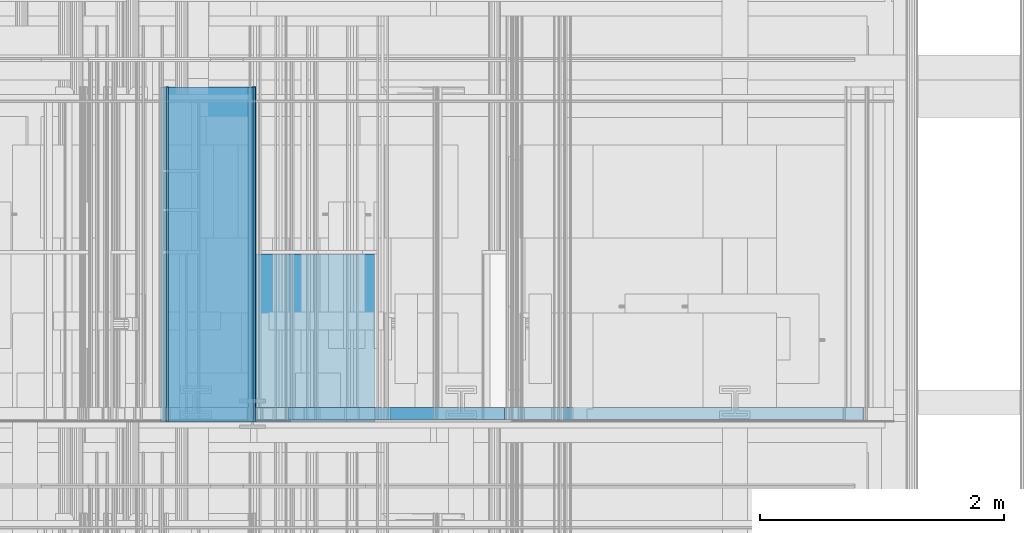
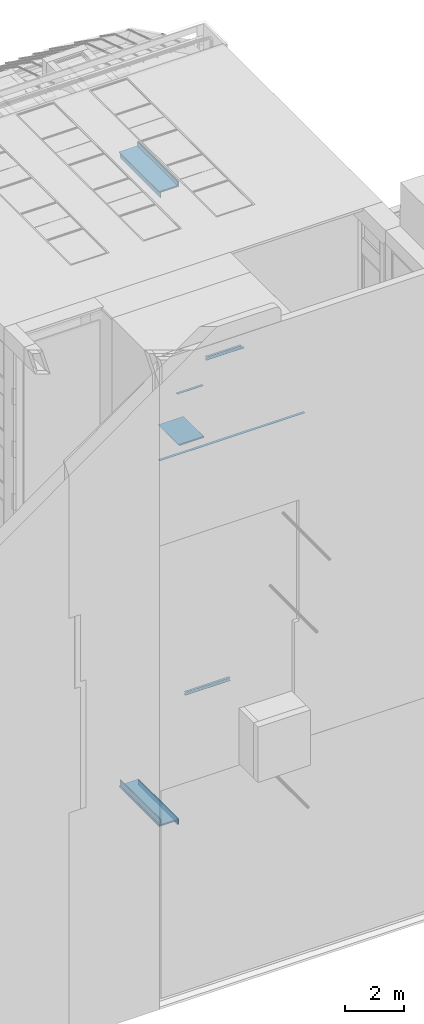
# One storey, part 108 of 583: 22 building element parts, 11 elements without a shape of their own.
"""IFC2X3 building model written with IfcOpenShell, lengths in metres."""

import ifcopenshell
import ifcopenshell.guid

model = None  # the IFC model being written
_history = None  # IfcOwnerHistory: only IFC2X3 demands one
_inside = {}  # id of a spatial element -> (the spatial element, [elements in it])
_under = {}  # id of a project, library or spatial element -> (it, [spatial elements below it])
_declared = {}  # id of a project -> (the project, [libraries it declares])
_typed = {}  # id of a type object -> (the type object, [elements of that type])
_made_of = {}  # id of a material, layer set ... -> (it, [elements and type objects made of it])


def new_model(schema):
    """Start an empty IFC model of exactly this schema.

    Asked for "IFC4X3", IfcOpenShell would pick the latest addendum, in which some entities
    have other attributes; the version numbers below select the first issue.
    IFC2X3 requires an IfcOwnerHistory on every rooted entity: one is made here for all.
    """
    global model, _history
    if schema == "IFC4X3":
        model = ifcopenshell.file(schema_version=(4, 3, 0, 0))
    else:
        model = ifcopenshell.file(schema=schema)
    _inside.clear()
    _under.clear()
    _declared.clear()
    _typed.clear()
    _made_of.clear()
    _history = None
    if model.schema == "IFC2X3":
        org = make("IfcOrganization", Name="unknown")
        user = make(
            "IfcPersonAndOrganization",
            ThePerson=make("IfcPerson", FamilyName="unknown"),
            TheOrganization=org,
        )
        app = make(
            "IfcApplication",
            ApplicationDeveloper=org,
            Version="unknown",
            ApplicationFullName="unknown",
            ApplicationIdentifier="unknown",
        )
        _history = make(
            "IfcOwnerHistory",
            OwningUser=user,
            OwningApplication=app,
            ChangeAction="ADDED",
            CreationDate=0,
        )
    return model


def make(cls, **values):
    """One entity of the class cls with the attributes given. An attribute that is None is left unset."""
    return model.create_entity(
        cls, **{name: value for name, value in values.items() if value is not None}
    )


def entity(cls, *values):
    """Any entity or typed value of the class cls, its attributes in the order of the schema. None: left unset."""
    e = model.create_entity(cls)
    for i, value in enumerate(values):
        if value is not None:
            e[i] = value
    return e


def rooted(cls, **values):
    """An entity with a GlobalId (a new one), such as an element, a storey or a relation."""
    return make(cls, GlobalId=ifcopenshell.guid.new(), OwnerHistory=_history, **values)


def si_unit(unit_type, name, prefix=None):
    """IfcSIUnit, for example si_unit("LENGTHUNIT", "METRE", prefix="MILLI")."""
    return make("IfcSIUnit", UnitType=unit_type, Prefix=prefix, Name=name)


def converted_unit(unit_type, name, factor, base, dimensions=None, offset=None):
    """IfcConversionBasedUnit, such as the inch: factor (a typed value) times the base unit."""
    return make(
        "IfcConversionBasedUnit"
        if offset is None
        else "IfcConversionBasedUnitWithOffset",
        ConversionOffset=offset,
        Dimensions=None
        if dimensions is None
        else entity("IfcDimensionalExponents", *dimensions),
        UnitType=unit_type,
        Name=name,
        ConversionFactor=make(
            "IfcMeasureWithUnit", ValueComponent=factor, UnitComponent=base
        ),
    )


def derived_unit(unit_type, elements):
    """IfcDerivedUnit: a product of units, each with its exponent."""
    return make(
        "IfcDerivedUnit",
        Elements=[
            make("IfcDerivedUnitElement", Unit=unit, Exponent=power)
            for unit, power in elements
        ],
        UnitType=unit_type,
    )


def money_unit(currency):
    """IfcMonetaryUnit."""
    return make("IfcMonetaryUnit", Currency=currency)


def assignment(units):
    """IfcUnitAssignment: the units of a project."""
    return None if units is None else make("IfcUnitAssignment", Units=units)


def point(xyz):
    """IfcCartesianPoint."""
    return None if xyz is None else make("IfcCartesianPoint", Coordinates=xyz)


def direction(xyz):
    """IfcDirection."""
    return None if xyz is None else make("IfcDirection", DirectionRatios=xyz)


def frame(location, z_axis=None, x_axis=None):
    """IfcAxis2Placement3D, a coordinate frame: its origin and axes. An axis left out is left unset."""
    return make(
        "IfcAxis2Placement3D",
        Location=point(location),
        Axis=direction(z_axis),
        RefDirection=direction(x_axis),
    )


def frame_2d(location, x_axis=None):
    """IfcAxis2Placement2D, a coordinate frame in the plane: its origin and x axis."""
    return make(
        "IfcAxis2Placement2D", Location=point(location), RefDirection=direction(x_axis)
    )


def origin_with_axes():
    """The frame at (0, 0, 0) with the z axis (0, 0, 1) and the x axis (1, 0, 0) written out."""
    return frame((0.0, 0.0, 0.0), z_axis=(0.0, 0.0, 1.0), x_axis=(1.0, 0.0, 0.0))


def place(relative_to, where):
    """IfcLocalPlacement: puts the frame where relative to a parent placement (None: the world)."""
    return make(
        "IfcLocalPlacement", PlacementRelTo=relative_to, RelativePlacement=where
    )


def context(
    kind, dimensions, precision=None, world=None, true_north=None, identifier=None
):
    """IfcGeometricRepresentationContext, for example the 3D "Model" context."""
    return make(
        "IfcGeometricRepresentationContext",
        ContextIdentifier=identifier,
        ContextType=kind,
        CoordinateSpaceDimension=dimensions,
        Precision=precision,
        WorldCoordinateSystem=world,
        TrueNorth=true_north,
    )


def subcontext(parent, identifier, kind, view, scale=None):
    """IfcGeometricRepresentationSubContext, for example "Body" below "Model"."""
    return make(
        "IfcGeometricRepresentationSubContext",
        ContextIdentifier=identifier,
        ContextType=kind,
        ParentContext=parent,
        TargetScale=scale,
        TargetView=view,
    )


def project(units=None, contexts=None):
    """IfcProject with its units and contexts."""
    return rooted(
        "IfcProject",
        Name="project",
        RepresentationContexts=contexts,
        UnitsInContext=assignment(units),
    )


def spatial(cls, under=None, at=None, **own):
    """A site, building, storey or space (cls), placed at a placement, below another one or the project."""
    s = rooted(cls, ObjectPlacement=at, **own)
    if under is not None:
        _under.setdefault(under.id(), (under, []))[1].append(s)
    return s


def polyline(points):
    """IfcPolyline through the points."""
    return make("IfcPolyline", Points=[point(p) for p in points])


def profile(cls, at=None, kind="AREA", **sizes):
    """A parametric profile (cls). Its sizes go by their IFC names, for example OverallWidth=200.0."""
    return make(cls, ProfileType=kind, Position=at, **sizes)


def rectangle(**sizes):
    """IfcRectangleProfileDef."""
    return profile("IfcRectangleProfileDef", **sizes)


def outline(outer, holes=None, kind="AREA"):
    """IfcArbitraryClosedProfileDef: a profile drawn as a closed curve; with holes, ...WithVoids."""
    if holes is None:
        return make("IfcArbitraryClosedProfileDef", ProfileType=kind, OuterCurve=outer)
    return make(
        "IfcArbitraryProfileDefWithVoids",
        ProfileType=kind,
        OuterCurve=outer,
        InnerCurves=holes,
    )


def extrude(swept, where, along, depth):
    """IfcExtrudedAreaSolid: the profile swept, set in the frame where, extruded along a direction by depth."""
    return make(
        "IfcExtrudedAreaSolid",
        SweptArea=swept,
        Position=where,
        ExtrudedDirection=direction(along),
        Depth=depth,
    )


def shape(context_of_items, identifier, shape_type, items):
    """IfcShapeRepresentation: the items that make up one representation, for example the "Body"."""
    return make(
        "IfcShapeRepresentation",
        ContextOfItems=context_of_items,
        RepresentationIdentifier=identifier,
        RepresentationType=shape_type,
        Items=items,
    )


def material(Name=None, Category=None):
    """IfcMaterial."""
    return make("IfcMaterial", Name=Name, Category=Category)


def made_of(thing, what):
    """Note that an element or type object is made of a material, layer set ...; save() writes the relation."""
    if what is not None:
        _made_of.setdefault(what.id(), (what, []))[1].append(thing)
    return thing


def type_object(cls, material=None, **own):
    """A type object (cls), such as IfcWallType, which elements share."""
    return made_of(rooted(cls, **own), material)


def element(
    cls,
    number,
    at=None,
    inside=None,
    cuts=None,
    type_object=None,
    material=None,
    context=None,
    identifier="Body",
    shape_type=None,
    held_by="IfcProductDefinitionShape",
    body=None,
    shapes=None,
    **own,
):
    """One element of the class cls, such as IfcWall. Its Tag is "e" and its number.

    at: its placement. inside: the storey or other place that contains it. cuts: it is an
    opening in that element (IfcRelVoidsElement). A single representation is given by context,
    identifier, shape_type and body (its items); several are given by shapes. held_by: the class
    of the entity that holds the representations. save() writes the other relations.
    """
    e = rooted(cls, Tag="e%d" % number, ObjectPlacement=at, **own)
    if body is not None:
        shapes = [shape(context, identifier, shape_type, body)]
    if shapes is not None:
        e.Representation = make(held_by, Representations=shapes)
    if inside is not None:
        _inside.setdefault(inside.id(), (inside, []))[1].append(e)
    if cuts is not None:
        rooted(
            "IfcRelVoidsElement", RelatingBuildingElement=cuts, RelatedOpeningElement=e
        )
    if type_object is not None:
        _typed.setdefault(type_object.id(), (type_object, []))[1].append(e)
    return made_of(e, material)


def aggregate(whole, parts):
    """IfcRelAggregates: a whole, such as a stair, and the parts it consists of."""
    return rooted("IfcRelAggregates", RelatingObject=whole, RelatedObjects=parts)


def save(model, path):
    """Write the relations noted so far, then the file.

    IfcRelAggregates (storeys below a building ...), IfcRelContainedInSpatialStructure (elements
    in a storey), IfcRelDefinesByType, IfcRelAssociatesMaterial and IfcRelDeclares: one each for
    every whole, place, type object, material and project.
    """
    for whole, parts in _under.values():
        aggregate(whole, parts)
    for where, things in _inside.values():
        rooted(
            "IfcRelContainedInSpatialStructure",
            RelatedElements=things,
            RelatingStructure=where,
        )
    for kind, things in _typed.values():
        rooted("IfcRelDefinesByType", RelatedObjects=things, RelatingType=kind)
    for what, things in _made_of.values():
        rooted("IfcRelAssociatesMaterial", RelatedObjects=things, RelatingMaterial=what)
    for by, libraries in _declared.values():
        rooted("IfcRelDeclares", RelatingContext=by, RelatedDefinitions=libraries)
    model.write(path)


model = new_model("IFC2X3")

# Units and contexts
model_context = context("Model", 3, precision=1e-05, world=origin_with_axes(), true_north=direction((0.0, 1.0)))
body_context = subcontext(model_context, "Body", "Model", "MODEL_VIEW", scale=1.0)
ifc_project = project(units=[si_unit("LENGTHUNIT", "METRE"), si_unit("AREAUNIT", "SQUARE_METRE"), si_unit("VOLUMEUNIT", "CUBIC_METRE"), si_unit("ABSORBEDDOSEUNIT", "GRAY"), si_unit("AMOUNTOFSUBSTANCEUNIT", "MOLE"), si_unit("DOSEEQUIVALENTUNIT", "SIEVERT"), si_unit("ELECTRICCAPACITANCEUNIT", "FARAD"), si_unit("ELECTRICCHARGEUNIT", "COULOMB"), si_unit("ELECTRICCONDUCTANCEUNIT", "SIEMENS"), si_unit("ELECTRICCURRENTUNIT", "AMPERE"), si_unit("ELECTRICRESISTANCEUNIT", "OHM"), si_unit("ELECTRICVOLTAGEUNIT", "VOLT"), si_unit("ENERGYUNIT", "JOULE"), si_unit("FORCEUNIT", "NEWTON"), si_unit("FREQUENCYUNIT", "HERTZ"), si_unit("ILLUMINANCEUNIT", "LUX"), si_unit("INDUCTANCEUNIT", "HENRY"), si_unit("LUMINOUSFLUXUNIT", "LUMEN"), si_unit("LUMINOUSINTENSITYUNIT", "CANDELA"), si_unit("MAGNETICFLUXDENSITYUNIT", "TESLA"), si_unit("MAGNETICFLUXUNIT", "WEBER"), si_unit("MASSUNIT", "GRAM"), converted_unit("PLANEANGLEUNIT", "degree", entity("IfcReal", 0.0174532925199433), si_unit("PLANEANGLEUNIT", "RADIAN"), dimensions=[0, 0, 0, 0, 0, 0, 0]), si_unit("POWERUNIT", "WATT"), si_unit("PRESSUREUNIT", "PASCAL"), si_unit("RADIOACTIVITYUNIT", "BECQUEREL"), si_unit("SOLIDANGLEUNIT", "STERADIAN"), si_unit("THERMODYNAMICTEMPERATUREUNIT", "KELVIN"), si_unit("TIMEUNIT", "SECOND"), derived_unit("ACCELERATIONUNIT", [(si_unit("LENGTHUNIT", "METRE"), 1), (si_unit("TIMEUNIT", "SECOND"), -2)]), derived_unit("ANGULARVELOCITYUNIT", [(converted_unit("PLANEANGLEUNIT", "degree", entity("IfcReal", 0.0174532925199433), si_unit("PLANEANGLEUNIT", "RADIAN"), dimensions=[0, 0, 0, 0, 0, 0, 0]), 1), (si_unit("TIMEUNIT", "SECOND"), -1)]), derived_unit("CURVATUREUNIT", [(converted_unit("PLANEANGLEUNIT", "degree", entity("IfcReal", 0.0174532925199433), si_unit("PLANEANGLEUNIT", "RADIAN"), dimensions=[0, 0, 0, 0, 0, 0, 0]), 1), (si_unit("LENGTHUNIT", "METRE"), -1)]), derived_unit("DYNAMICVISCOSITYUNIT", [(si_unit("PRESSUREUNIT", "PASCAL"), 1), (si_unit("TIMEUNIT", "SECOND"), 1)]), derived_unit("HEATFLUXDENSITYUNIT", [(si_unit("POWERUNIT", "WATT"), 1), (si_unit("LENGTHUNIT", "METRE"), -2)]), derived_unit("HEATINGVALUEUNIT", [(si_unit("ENERGYUNIT", "JOULE"), 1), (si_unit("MASSUNIT", "GRAM"), -1)]), derived_unit("INTEGERCOUNTRATEUNIT", [(si_unit("TIMEUNIT", "SECOND"), -1)]), derived_unit("IONCONCENTRATIONUNIT", [(si_unit("MASSUNIT", "GRAM"), 1), (si_unit("VOLUMEUNIT", "CUBIC_METRE"), -1)]), derived_unit("ISOTHERMALMOISTURECAPACITYUNIT", [(si_unit("VOLUMEUNIT", "CUBIC_METRE"), 1), (si_unit("MASSUNIT", "GRAM"), -1)]), derived_unit("KINEMATICVISCOSITYUNIT", [(si_unit("AREAUNIT", "SQUARE_METRE"), 1), (si_unit("TIMEUNIT", "SECOND"), -1)]), derived_unit("LINEARFORCEUNIT", [(si_unit("FORCEUNIT", "NEWTON"), 1), (si_unit("LENGTHUNIT", "METRE"), -1)]), derived_unit("LINEARMOMENTUNIT", [(si_unit("FORCEUNIT", "NEWTON"), 1), (si_unit("LENGTHUNIT", "METRE"), -1)]), derived_unit("LINEARSTIFFNESSUNIT", [(si_unit("FORCEUNIT", "NEWTON"), 1), (si_unit("LENGTHUNIT", "METRE"), -1)]), derived_unit("LINEARVELOCITYUNIT", [(si_unit("LENGTHUNIT", "METRE"), 1), (si_unit("TIMEUNIT", "SECOND"), -1)]), derived_unit("LUMINOUSINTENSITYDISTRIBUTIONUNIT", [(si_unit("LUMINOUSINTENSITYUNIT", "CANDELA"), 1), (si_unit("LUMINOUSFLUXUNIT", "LUMEN"), -1)]), derived_unit("MASSDENSITYUNIT", [(si_unit("MASSUNIT", "GRAM"), 1), (si_unit("VOLUMEUNIT", "CUBIC_METRE"), -1)]), derived_unit("MASSFLOWRATEUNIT", [(si_unit("MASSUNIT", "GRAM"), 1), (si_unit("TIMEUNIT", "SECOND"), -1)]), derived_unit("MASSPERLENGTHUNIT", [(si_unit("MASSUNIT", "GRAM"), 1), (si_unit("LENGTHUNIT", "METRE"), -1)]), derived_unit("MODULUSOFELASTICITYUNIT", [(si_unit("FORCEUNIT", "NEWTON"), 1), (si_unit("AREAUNIT", "SQUARE_METRE"), -1)]), derived_unit("MODULUSOFLINEARSUBGRADEREACTIONUNIT", [(si_unit("FORCEUNIT", "NEWTON"), 1), (si_unit("LENGTHUNIT", "METRE"), -2)]), derived_unit("MODULUSOFROTATIONALSUBGRADEREACTIONUNIT", [(si_unit("FORCEUNIT", "NEWTON"), 1), (si_unit("LENGTHUNIT", "METRE"), 1)]), derived_unit("MODULUSOFSUBGRADEREACTIONUNIT", [(si_unit("FORCEUNIT", "NEWTON"), 1), (si_unit("VOLUMEUNIT", "CUBIC_METRE"), -1)]), derived_unit("MOISTUREDIFFUSIVITYUNIT", [(si_unit("VOLUMEUNIT", "CUBIC_METRE"), 1), (si_unit("TIMEUNIT", "SECOND"), -1)]), derived_unit("MOLECULARWEIGHTUNIT", [(si_unit("MASSUNIT", "GRAM"), 1), (si_unit("AMOUNTOFSUBSTANCEUNIT", "MOLE"), -1)]), derived_unit("PLANARFORCEUNIT", [(si_unit("FORCEUNIT", "NEWTON"), 1), (si_unit("LENGTHUNIT", "METRE"), -2)]), derived_unit("ROTATIONALFREQUENCYUNIT", [(si_unit("TIMEUNIT", "SECOND"), -1)]), derived_unit("ROTATIONALMASSUNIT", [(si_unit("MASSUNIT", "GRAM"), 1), (si_unit("LENGTHUNIT", "METRE"), 2)]), derived_unit("ROTATIONALSTIFFNESSUNIT", [(si_unit("FORCEUNIT", "NEWTON"), 1), (si_unit("LENGTHUNIT", "METRE"), 1), (converted_unit("PLANEANGLEUNIT", "degree", entity("IfcReal", 0.0174532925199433), si_unit("PLANEANGLEUNIT", "RADIAN"), dimensions=[0, 0, 0, 0, 0, 0, 0]), -1)]), derived_unit("SECTIONAREAINTEGRALUNIT", [(si_unit("LENGTHUNIT", "METRE"), 5)]), derived_unit("SECTIONMODULUSUNIT", [(si_unit("LENGTHUNIT", "METRE"), 3)]), derived_unit("SHEARMODULUSUNIT", [(si_unit("FORCEUNIT", "NEWTON"), 1), (si_unit("AREAUNIT", "SQUARE_METRE"), -1)]), derived_unit("SOUNDPOWERUNIT", [(si_unit("ENERGYUNIT", "JOULE"), 1), (si_unit("TIMEUNIT", "SECOND"), -1)]), derived_unit("SPECIFICHEATCAPACITYUNIT", [(si_unit("FORCEUNIT", "NEWTON"), 1), (si_unit("MASSUNIT", "GRAM"), -1), (si_unit("THERMODYNAMICTEMPERATUREUNIT", "KELVIN"), -1)]), derived_unit("TEMPERATUREGRADIENTUNIT", [(si_unit("THERMODYNAMICTEMPERATUREUNIT", "KELVIN"), 1), (si_unit("LENGTHUNIT", "METRE"), -1)]), derived_unit("THERMALADMITTANCEUNIT", [(si_unit("POWERUNIT", "WATT"), 1), (si_unit("AREAUNIT", "SQUARE_METRE"), -1), (si_unit("THERMODYNAMICTEMPERATUREUNIT", "KELVIN"), -1)]), derived_unit("THERMALCONDUCTANCEUNIT", [(si_unit("POWERUNIT", "WATT"), 1), (si_unit("LENGTHUNIT", "METRE"), -1), (si_unit("THERMODYNAMICTEMPERATUREUNIT", "KELVIN"), -1)]), derived_unit("THERMALEXPANSIONCOEFFICIENTUNIT", [(si_unit("THERMODYNAMICTEMPERATUREUNIT", "KELVIN"), -1)]), derived_unit("THERMALRESISTANCEUNIT", [(si_unit("AREAUNIT", "SQUARE_METRE"), 1), (si_unit("POWERUNIT", "WATT"), -1)]), derived_unit("THERMALTRANSMITTANCEUNIT", [(si_unit("POWERUNIT", "WATT"), 1), (si_unit("AREAUNIT", "SQUARE_METRE"), -1), (si_unit("THERMODYNAMICTEMPERATUREUNIT", "KELVIN"), -1)]), derived_unit("TORQUEUNIT", [(si_unit("FORCEUNIT", "NEWTON"), 1), (si_unit("LENGTHUNIT", "METRE"), 1)]), derived_unit("VAPORPERMEABILITYUNIT", [(si_unit("MASSUNIT", "GRAM"), 1), (si_unit("TIMEUNIT", "SECOND"), -1)]), derived_unit("VOLUMETRICFLOWRATEUNIT", [(si_unit("VOLUMEUNIT", "CUBIC_METRE"), 1), (si_unit("TIMEUNIT", "SECOND"), -1)]), derived_unit("WARPINGCONSTANTUNIT", [(si_unit("LENGTHUNIT", "METRE"), 6)]), derived_unit("WARPINGMOMENTUNIT", [(si_unit("FORCEUNIT", "NEWTON"), 1), (si_unit("LENGTHUNIT", "METRE"), 2)]), money_unit("GBP")], contexts=[model_context])

# Site, building, storey
site_placement = place(None, origin_with_axes())
site = spatial("IfcSite", under=ifc_project, at=site_placement, Name="Site", CompositionType="ELEMENT")
building_placement = place(site_placement, origin_with_axes())
building = spatial("IfcBuilding", under=site, at=building_placement, Name="Building01", CompositionType="ELEMENT")
storey_placement = place(building_placement, frame((0.0, 0.0, 20.78), z_axis=(0.0, 0.0, 1.0), x_axis=(1.0, 0.0, 0.0)))
storey = spatial("IfcBuildingStorey", under=building, at=storey_placement, Name="RL", CompositionType="ELEMENT", Elevation=20.78)

# Wall, building element parts
wall_type_1 = type_object("IfcWallType", Name="SHE_A-Walls_Type05a_Partition_95mm_tall", PredefinedType="NOTDEFINED")
wall_1_placement = place(storey_placement, frame((10.63, 8.64, -1.694716), z_axis=(0.0, 1.0, 0.0), x_axis=(1.0, 0.0, 0.0)))
wall_1 = element("IfcWall", 1, at=wall_1_placement, inside=storey, type_object=wall_type_1, Name="5A", ObjectType="SHE_A-Walls_Type05a_Partition_95mm_tall")
ifc_material_1 = material(Name="A_BSUK_Walls_Timber")
placement_1 = place(wall_1_placement, origin_with_axes())
building_element_part_1 = element("IfcBuildingElementPart", 2, at=placement_1, material=ifc_material_1, Name="2", context=body_context, shape_type="SweptSolid", body=[
    extrude(outline(polyline([(1.544378, 0.075), (0.05, 0.075), (0.035, 0.06), (1.529378, 0.06), (1.544378, 0.075)])), frame((0.0, 0.0, 0.015), z_axis=(0.0, 0.0, 1.0), x_axis=(1.0, 0.0, 0.0)), (0.0, 0.0, 1.0), 0.1),
])
building_element_part_2 = element("IfcBuildingElementPart", 3, at=placement_1, material=ifc_material_1, Name="3", context=body_context, shape_type="SweptSolid", body=[
    extrude(outline(polyline([(1.434378, -0.035), (0.05, -0.035), (0.05, -0.05), (1.419378, -0.05), (1.434378, -0.035)])), frame((0.0, 0.0, 0.015), z_axis=(0.0, 0.0, 1.0), x_axis=(1.0, 0.0, 0.0)), (0.0, 0.0, 1.0), 0.1),
])
aggregate(wall_1, [building_element_part_1, building_element_part_2])

# Wall, building element part
wall_type_2 = type_object("IfcWallType", Name="SHE_A-Walls_Type01c_Partywall_225mm_twin_tall", PredefinedType="NOTDEFINED")
wall_2_placement = place(storey_placement, frame((8.82, 8.64, -5.159868), z_axis=(0.0, 1.0, 0.0), x_axis=(1.0, 0.0, 0.0)))
wall_2 = element("IfcWall", 4, at=wall_2_placement, inside=storey, type_object=wall_type_2, Name="1C", ObjectType="SHE_A-Walls_Type01c_Partywall_225mm_twin_tall")
building_element_part_3_placement = place(wall_2_placement, origin_with_axes())
building_element_part_3 = element("IfcBuildingElementPart", 5, at=building_element_part_3_placement, material=ifc_material_1, Name="2", context=body_context, shape_type="SweptSolid", body=[
    extrude(rectangle(XDim=5.717, YDim=0.015, at=frame_2d((2.8735, 0.1445), x_axis=(-1.0, 0.0))), frame((0.0, 0.0, 0.015), z_axis=(0.0, 0.0, 1.0), x_axis=(1.0, 0.0, 0.0)), (0.0, 0.0, 1.0), 0.1),
])
aggregate(wall_2, [building_element_part_3])

# Wall, building element parts
wall_type_3 = type_object("IfcWallType", Name="SHE_A-Walls_Type05c_PreWallShell_65mm", PredefinedType="NOTDEFINED")
wall_3_placement = place(storey_placement, frame((9.605, 8.64, -4.936868), z_axis=(0.0, 1.0, 0.0), x_axis=(1.0, 0.0, 0.0)))
wall_3 = element("IfcWall", 6, at=wall_3_placement, inside=storey, type_object=wall_type_3, Name="5C", ObjectType="SHE_A-Walls_Type05c_PreWallShell_65mm")
ifc_material_2 = material(Name="A_BSUK_OpeningsClearance")
placement_2 = place(wall_3_placement, origin_with_axes())
building_element_part_4 = element("IfcBuildingElementPart", 7, at=placement_2, material=ifc_material_2, Name="1", context=body_context, shape_type="SweptSolid", body=[
    extrude(rectangle(XDim=0.965, YDim=0.05, at=frame_2d((0.4825, -0.025), x_axis=(-1.0, 0.0))), origin_with_axes(), (0.0, 0.0, 1.0), 1.375),
])
building_element_part_5 = element("IfcBuildingElementPart", 8, at=placement_2, material=ifc_material_1, Name="2", context=body_context, shape_type="SweptSolid", body=[
    extrude(rectangle(XDim=1.0, YDim=0.015, at=frame_2d((0.45, -0.0575), x_axis=(-1.0, 0.0))), origin_with_axes(), (0.0, 0.0, 1.0), 1.375),
])
aggregate(wall_3, [building_element_part_4, building_element_part_5])

# Wall, building element part
wall_4_placement = place(storey_placement, frame((9.585, 8.64, -2.84), z_axis=(0.0, 1.0, 0.0), x_axis=(1.0, 0.0, 0.0)))
wall_4 = element("IfcWall", 9, at=wall_4_placement, inside=storey, type_object=wall_type_1, Name="5A", ObjectType="SHE_A-Walls_Type05a_Partition_95mm_tall")
building_element_part_6_placement = place(wall_4_placement, origin_with_axes())
building_element_part_6 = element("IfcBuildingElementPart", 10, at=building_element_part_6_placement, material=ifc_material_1, Name="3", context=body_context, shape_type="SweptSolid", body=[
    extrude(outline(polyline([(0.97, -0.06), (-0.06, -0.06), (-0.075, -0.075), (0.97, -0.075), (0.97, -0.06)])), frame((0.0, 0.0, 0.015), z_axis=(0.0, 0.0, 1.0), x_axis=(1.0, 0.0, 0.0)), (0.0, 0.0, 1.0), 0.1),
])
aggregate(wall_4, [building_element_part_6])

# Wall, building element parts
wall_5_placement = place(storey_placement, frame((9.79567, 8.64, -15.350331), z_axis=(0.0, 1.0, 0.0), x_axis=(1.0, 0.0, 0.0)))
wall_5 = element("IfcWall", 11, at=wall_5_placement, inside=storey, type_object=wall_type_1, Name="5A", ObjectType="SHE_A-Walls_Type05a_Partition_95mm_tall")
placement_3 = place(wall_5_placement, origin_with_axes())
building_element_part_7 = element("IfcBuildingElementPart", 12, at=placement_3, material=ifc_material_1, Name="2", context=body_context, shape_type="SweptSolid", body=[
    extrude(rectangle(XDim=1.77, YDim=0.015, at=frame_2d((0.935, 0.0675), x_axis=(-1.0, 0.0))), frame((0.0, 0.0, 0.015), z_axis=(0.0, 0.0, 1.0), x_axis=(1.0, 0.0, 0.0)), (0.0, 0.0, 1.0), 0.1),
])
building_element_part_8 = element("IfcBuildingElementPart", 13, at=placement_3, material=ifc_material_1, Name="3", context=body_context, shape_type="SweptSolid", body=[
    extrude(rectangle(XDim=1.77, YDim=0.015, at=frame_2d((0.935, -0.0425), x_axis=(-1.0, 0.0))), frame((0.0, 0.0, 0.015), z_axis=(0.0, 0.0, 1.0), x_axis=(1.0, 0.0, 0.0)), (0.0, 0.0, 1.0), 0.1),
])
aggregate(wall_5, [building_element_part_7, building_element_part_8])

# Wall, building element part
wall_type_4 = type_object("IfcWallType", Name="SHE_A-Walls_Type06f_ExternalWallInsulation_48+15mm", PredefinedType="NOTDEFINED")
wall_6_placement = place(storey_placement, frame((8.8, 8.64, 5.894), z_axis=(0.0, 1.0, 0.0), x_axis=(0.0, 0.0, -1.0)))
wall_6 = element("IfcWall", 14, at=wall_6_placement, inside=storey, type_object=wall_type_4, Name="6F", ObjectType="SHE_A-Walls_Type06f_ExternalWallInsulation_48+15mm")
ifc_material_3 = material(Name="A_BSUK_WallInternal_Finishes_Plasterboard")
building_element_part_9_placement = place(wall_6_placement, origin_with_axes())
building_element_part_9 = element("IfcBuildingElementPart", 15, at=building_element_part_9_placement, material=ifc_material_3, Name="3", context=body_context, shape_type="SweptSolid", body=[
    extrude(outline(polyline([(0.242, -0.048), (0.012, -0.048), (0.027, -0.063), (0.257, -0.063), (0.242, -0.048)])), origin_with_axes(), (0.0, 0.0, 1.0), 2.74),
])
aggregate(wall_6, [building_element_part_9])

# Wall, building element parts
wall_7_placement = place(storey_placement, frame((9.51418, 8.64, 5.93), z_axis=(0.0, 1.0, 0.0), x_axis=(-1.0, 0.0, 0.0)))
wall_7 = element("IfcWall", 16, at=wall_7_placement, inside=storey, type_object=wall_type_4, Name="6F", ObjectType="SHE_A-Walls_Type06f_ExternalWallInsulation_48+15mm")
ifc_material_4 = material(Name="A_BSUK_Insulation")
placement_4 = place(wall_7_placement, origin_with_axes())
building_element_part_10 = element("IfcBuildingElementPart", 17, at=placement_4, material=ifc_material_4, Name="1", context=body_context, shape_type="SweptSolid", body=[
    extrude(rectangle(XDim=0.71418, YDim=0.036, at=frame_2d((0.35709, -0.018), x_axis=(-1.0, 0.0))), origin_with_axes(), (0.0, 0.0, 1.0), 2.74),
])
building_element_part_11 = element("IfcBuildingElementPart", 18, at=placement_4, material=ifc_material_3, Name="3", context=body_context, shape_type="SweptSolid", body=[
    extrude(outline(polyline([(0.66618, -0.048), (-0.048, -0.048), (-0.063, -0.063), (0.65118, -0.063), (0.66618, -0.048)])), origin_with_axes(), (0.0, 0.0, 1.0), 2.74),
])
building_element_part_12 = element("IfcBuildingElementPart", 19, at=placement_4, material=ifc_material_3, Name="4", context=body_context, shape_type="SweptSolid", body=[
    extrude(rectangle(XDim=0.71418, YDim=0.012, at=frame_2d((0.30909, -0.042), x_axis=(-1.0, 0.0))), origin_with_axes(), (0.0, 0.0, 1.0), 2.74),
])
aggregate(wall_7, [building_element_part_10, building_element_part_11, building_element_part_12])

wall_8_placement = place(storey_placement, frame((9.51418, 8.64, 6.1), z_axis=(0.0, 1.0, 0.0), x_axis=(0.0, 0.0, -1.0)))
wall_8 = element("IfcWall", 20, at=wall_8_placement, inside=storey, type_object=wall_type_4, Name="6F", ObjectType="SHE_A-Walls_Type06f_ExternalWallInsulation_48+15mm")
placement_5 = place(wall_8_placement, origin_with_axes())
building_element_part_13 = element("IfcBuildingElementPart", 21, at=placement_5, material=ifc_material_4, Name="1", context=body_context, shape_type="SweptSolid", body=[
    extrude(rectangle(XDim=0.206, YDim=0.036, at=frame_2d((0.103, -0.018), x_axis=(-1.0, 0.0))), origin_with_axes(), (0.0, 0.0, 1.0), 2.74),
])
building_element_part_14 = element("IfcBuildingElementPart", 22, at=placement_5, material=ifc_material_3, Name="3", context=body_context, shape_type="SweptSolid", body=[
    extrude(outline(polyline([(0.218, -0.048), (0.0, -0.048), (0.0, -0.063), (0.233, -0.063), (0.218, -0.048)])), origin_with_axes(), (0.0, 0.0, 1.0), 2.74),
])
building_element_part_15 = element("IfcBuildingElementPart", 23, at=placement_5, material=ifc_material_3, Name="4", context=body_context, shape_type="SweptSolid", body=[
    extrude(rectangle(XDim=0.206, YDim=0.012, at=frame_2d((0.103, -0.042), x_axis=(-1.0, 0.0))), origin_with_axes(), (0.0, 0.0, 1.0), 2.74),
])
aggregate(wall_8, [building_element_part_13, building_element_part_14, building_element_part_15])

# Wall, building element part
wall_9_placement = place(storey_placement, frame((8.8, 8.64, -20.474), z_axis=(0.0, 1.0, 0.0), x_axis=(0.0, 0.0, -1.0)))
wall_9 = element("IfcWall", 24, at=wall_9_placement, inside=storey, type_object=wall_type_4, Name="6F", ObjectType="SHE_A-Walls_Type06f_ExternalWallInsulation_48+15mm")
building_element_part_16_placement = place(wall_9_placement, origin_with_axes())
building_element_part_16 = element("IfcBuildingElementPart", 25, at=building_element_part_16_placement, material=ifc_material_3, Name="3", context=body_context, shape_type="SweptSolid", body=[
    extrude(outline(polyline([(-0.257, -0.063), (-0.027, -0.063), (-0.012, -0.048), (-0.242, -0.048), (-0.257, -0.063)])), origin_with_axes(), (0.0, 0.0, 1.0), 2.74),
])
aggregate(wall_9, [building_element_part_16])

# Wall, building element parts
wall_10_placement = place(storey_placement, frame((9.51418, 8.64, -20.51), z_axis=(0.0, 1.0, 0.0), x_axis=(1.0, 0.0, 0.0)))
wall_10 = element("IfcWall", 26, at=wall_10_placement, inside=storey, type_object=wall_type_4, Name="6F", ObjectType="SHE_A-Walls_Type06f_ExternalWallInsulation_48+15mm")
placement_6 = place(wall_10_placement, origin_with_axes())
building_element_part_17 = element("IfcBuildingElementPart", 27, at=placement_6, material=ifc_material_4, Name="1", context=body_context, shape_type="SweptSolid", body=[
    extrude(rectangle(XDim=0.71418, YDim=0.036, at=frame_2d((-0.35709, -0.018), x_axis=(1.0, 0.0))), origin_with_axes(), (0.0, 0.0, 1.0), 2.74),
])
building_element_part_18 = element("IfcBuildingElementPart", 28, at=placement_6, material=ifc_material_3, Name="3", context=body_context, shape_type="SweptSolid", body=[
    extrude(outline(polyline([(-0.65118, -0.063), (0.063, -0.063), (0.048, -0.048), (-0.66618, -0.048), (-0.65118, -0.063)])), origin_with_axes(), (0.0, 0.0, 1.0), 2.74),
])
building_element_part_19 = element("IfcBuildingElementPart", 29, at=placement_6, material=ifc_material_3, Name="4", context=body_context, shape_type="SweptSolid", body=[
    extrude(rectangle(XDim=0.71418, YDim=0.012, at=frame_2d((-0.30909, -0.042), x_axis=(1.0, 0.0))), origin_with_axes(), (0.0, 0.0, 1.0), 2.74),
])
aggregate(wall_10, [building_element_part_17, building_element_part_18, building_element_part_19])

wall_11_placement = place(storey_placement, frame((9.51418, 8.64, -20.68), z_axis=(0.0, 1.0, 0.0), x_axis=(0.0, 0.0, -1.0)))
wall_11 = element("IfcWall", 30, at=wall_11_placement, inside=storey, type_object=wall_type_4, Name="6F", ObjectType="SHE_A-Walls_Type06f_ExternalWallInsulation_48+15mm")
placement_7 = place(wall_11_placement, origin_with_axes())
building_element_part_20 = element("IfcBuildingElementPart", 31, at=placement_7, material=ifc_material_4, Name="1", context=body_context, shape_type="SweptSolid", body=[
    extrude(rectangle(XDim=0.206, YDim=0.036, at=frame_2d((-0.103, -0.018), x_axis=(1.0, 0.0))), origin_with_axes(), (0.0, 0.0, 1.0), 2.74),
])
building_element_part_21 = element("IfcBuildingElementPart", 32, at=placement_7, material=ifc_material_3, Name="3", context=body_context, shape_type="SweptSolid", body=[
    extrude(outline(polyline([(-0.233, -0.063), (0.0, -0.063), (0.0, -0.048), (-0.218, -0.048), (-0.233, -0.063)])), origin_with_axes(), (0.0, 0.0, 1.0), 2.74),
])
building_element_part_22 = element("IfcBuildingElementPart", 33, at=placement_7, material=ifc_material_3, Name="4", context=body_context, shape_type="SweptSolid", body=[
    extrude(rectangle(XDim=0.206, YDim=0.012, at=frame_2d((-0.103, -0.042), x_axis=(1.0, 0.0))), origin_with_axes(), (0.0, 0.0, 1.0), 2.74),
])
aggregate(wall_11, [building_element_part_20, building_element_part_21, building_element_part_22])

save(model, "model.ifc")
